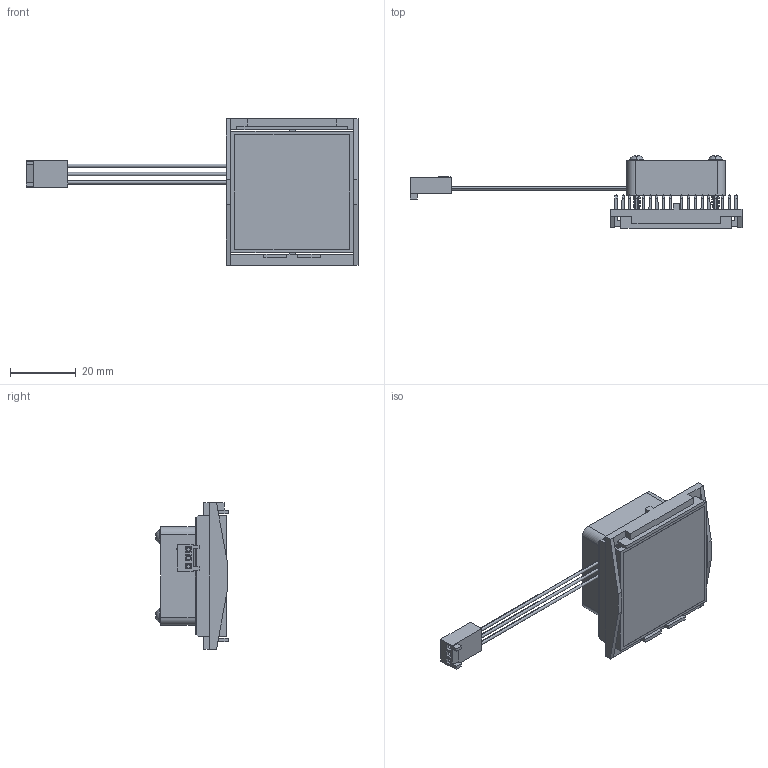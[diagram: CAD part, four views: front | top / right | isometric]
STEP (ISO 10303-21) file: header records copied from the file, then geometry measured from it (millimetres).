
FILE_DESCRIPTION (( 'STEP AP214' ), '1' );
FILE_NAME ('FJ37.5-1.7+O.STEP', '2023-05-09T18:40:24', ( '' ), ( '' ), 'SwSTEP 2.0', 'SolidWorks 2020', '' );
FILE_SCHEMA (( 'AUTOMOTIVE_DESIGN' ));
Length unit declared in the file: millimetre
Products named in the file (1): FJ37.5-1.7+O
Bounding box: 101.09 x 22.1 x 44.6 mm (x, y, z)
Volume: 12914.5 mm3; surface area: 25035.3 mm2
Topology: 8 solids, 8 shells, 912 faces, 2634 edges, 1750 vertices
Faces by surface type: cylinder 390, plane 344, bspline 122, cone 40, sphere 8, torus 8
Entity records: 65593 total; most frequent: CARTESIAN_POINT 34333, ORIENTED_EDGE 5268, DIRECTION 3576, EDGE_CURVE 2634, VERTEX_POINT 1750, LINE 1330, VECTOR 1330, AXIS2_PLACEMENT_3D 1123
